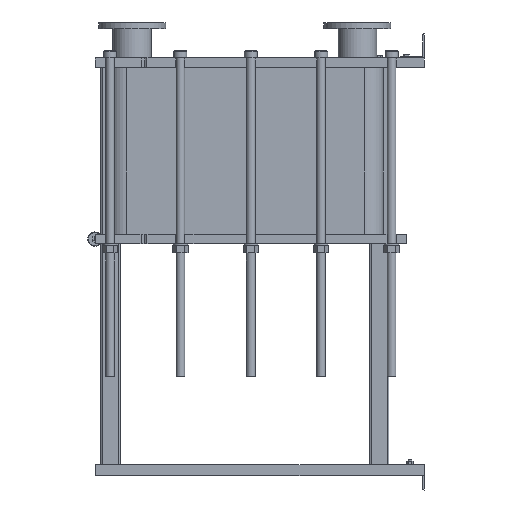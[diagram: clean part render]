
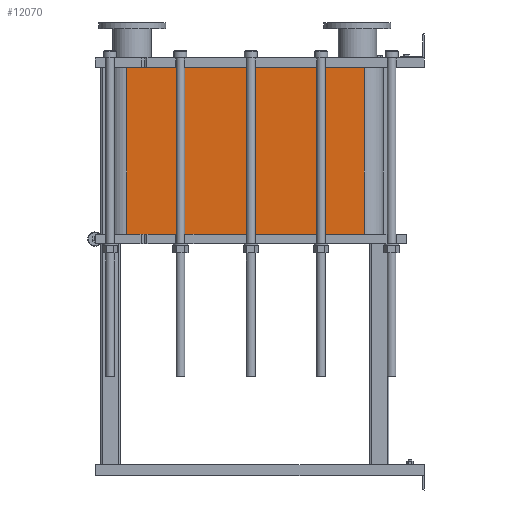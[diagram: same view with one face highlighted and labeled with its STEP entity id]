
A CAD part, left-side view. The second image highlights one B-rep face of the part: STEP entity #12070.
In plain terms, the highlighted planar face has unit normal (-1, 0, 0).
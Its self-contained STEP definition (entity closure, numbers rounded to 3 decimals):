
#1064=LINE('',#21140,#2164);
#1065=LINE('',#21144,#2165);
#1066=LINE('',#21146,#2166);
#1067=LINE('',#21147,#2167);
#2164=VECTOR('',#15790,10.);
#2165=VECTOR('',#15795,10.);
#2166=VECTOR('',#15796,10.);
#2167=VECTOR('',#15797,10.);
#3304=FACE_OUTER_BOUND('',#4091,.T.);
#4091=EDGE_LOOP('',(#9793,#9794,#9795,#9796));
#5677=VERTEX_POINT('',#21137);
#5678=VERTEX_POINT('',#21139);
#5679=VERTEX_POINT('',#21143);
#5680=VERTEX_POINT('',#21145);
#7118=EDGE_CURVE('',#5678,#5677,#1064,.T.);
#7120=EDGE_CURVE('',#5677,#5679,#1065,.T.);
#7121=EDGE_CURVE('',#5680,#5679,#1066,.T.);
#7122=EDGE_CURVE('',#5680,#5678,#1067,.T.);
#9793=ORIENTED_EDGE('',*,*,#7120,.T.);
#9794=ORIENTED_EDGE('',*,*,#7121,.F.);
#9795=ORIENTED_EDGE('',*,*,#7122,.T.);
#9796=ORIENTED_EDGE('',*,*,#7118,.T.);
#11441=PLANE('',#13191);
#12070=ADVANCED_FACE('',(#3304),#11441,.T.);
#13191=AXIS2_PLACEMENT_3D('',#21142,#15793,#15794);
#15790=DIRECTION('',(0.,0.,-1.));
#15793=DIRECTION('center_axis',(-1.,0.,0.));
#15794=DIRECTION('ref_axis',(0.,1.,0.));
#15795=DIRECTION('',(0.,-1.,0.));
#15796=DIRECTION('',(0.,0.,-1.));
#15797=DIRECTION('',(0.,1.,0.));
#21137=CARTESIAN_POINT('',(-248.152,1243.818,-696.9));
#21139=CARTESIAN_POINT('',(-248.152,1243.818,0.));
#21140=CARTESIAN_POINT('',(-248.152,1243.818,0.));
#21142=CARTESIAN_POINT('Origin',(-248.152,251.818,0.));
#21143=CARTESIAN_POINT('',(-248.152,251.818,-696.9));
#21144=CARTESIAN_POINT('',(-248.152,499.818,-696.9));
#21145=CARTESIAN_POINT('',(-248.152,251.818,0.));
#21146=CARTESIAN_POINT('',(-248.152,251.818,0.));
#21147=CARTESIAN_POINT('',(-248.152,251.818,0.));
